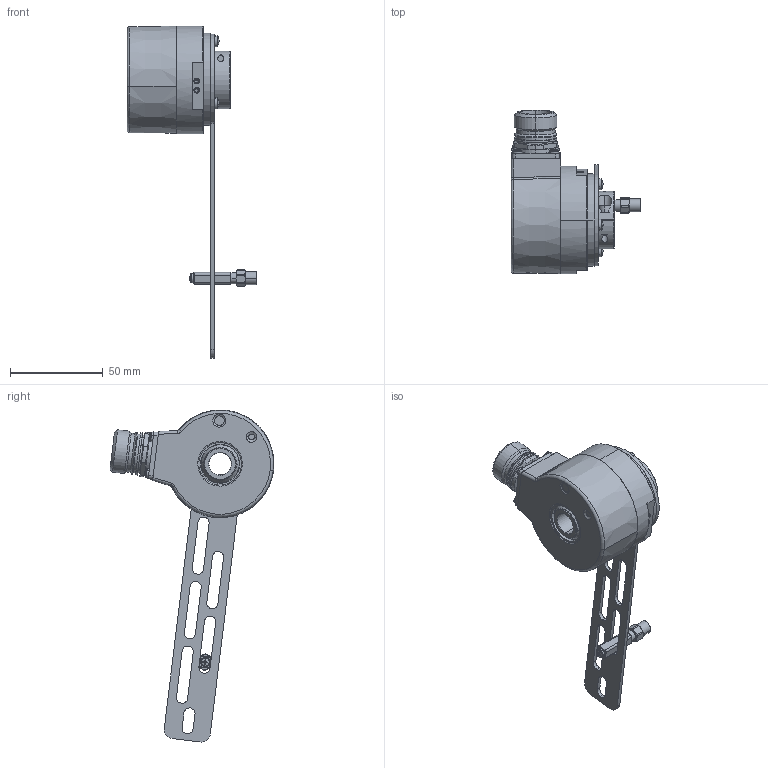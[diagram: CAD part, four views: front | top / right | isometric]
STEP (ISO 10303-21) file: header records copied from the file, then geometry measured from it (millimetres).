
FILE_DESCRIPTION (( 'STEP AP214' ), '1' );
FILE_NAME ('5834SIL.A4X4.XXXX.STEP', '2010-08-13T07:54:28', ( 'admin' ), ( 'Fritz Kübler GmbH' ), 'SwSTEP 2.0', 'SolidWorks 2009', '' );
FILE_SCHEMA (( 'AUTOMOTIVE_DESIGN' ));
Length unit declared in the file: millimetre
Products named in the file (1): 5834SIL.A4X4.XXXX
Bounding box: 70 x 88.28 x 178.83 mm (x, y, z)
Surface area: 35191.3 mm2 (no closed solid volume)
Topology: 0 solids, 45 shells, 498 faces, 1423 edges, 942 vertices
Faces by surface type: cylinder 197, plane 169, cone 72, sphere 34, torus 22, bspline 4
Entity records: 22548 total; most frequent: CARTESIAN_POINT 3792, DIRECTION 3040, ORIENTED_EDGE 2443, EDGE_CURVE 1405, AXIS2_PLACEMENT_3D 1220, VERTEX_POINT 942, CIRCLE 725, VECTOR 600
